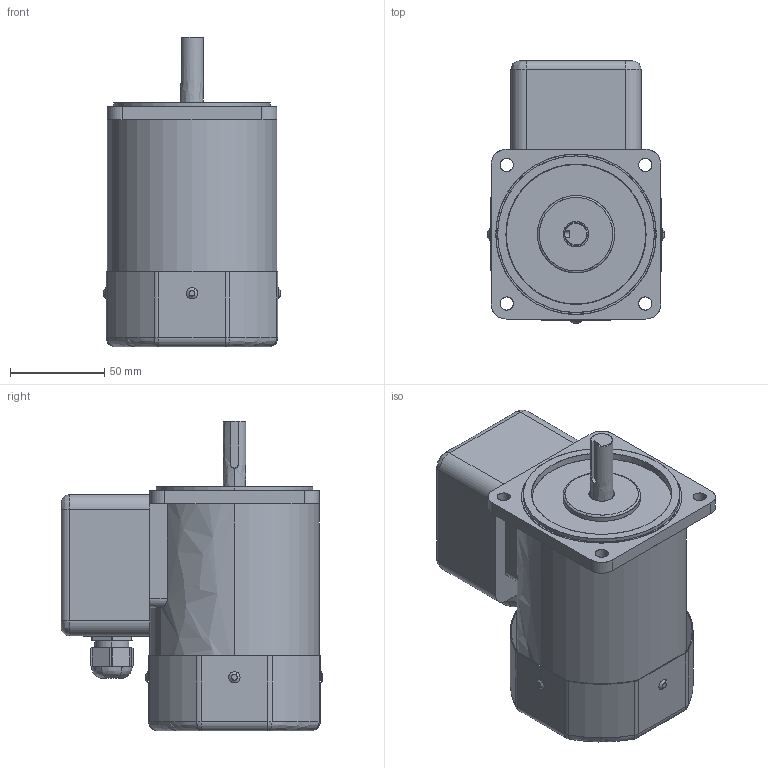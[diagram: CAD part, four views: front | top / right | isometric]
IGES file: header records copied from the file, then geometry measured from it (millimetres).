
Start section: SolidWorks IGES file using analytic representation for surfaces
Bounding box: 94 x 139 x 164.5 mm (x, y, z)
Surface area: 116422.6 mm2 (no closed solid volume)
Topology: 0 solids, 0 shells, 213 faces, 3079 edges, 3071 vertices
Faces by surface type: bspline 115, revolution 98
